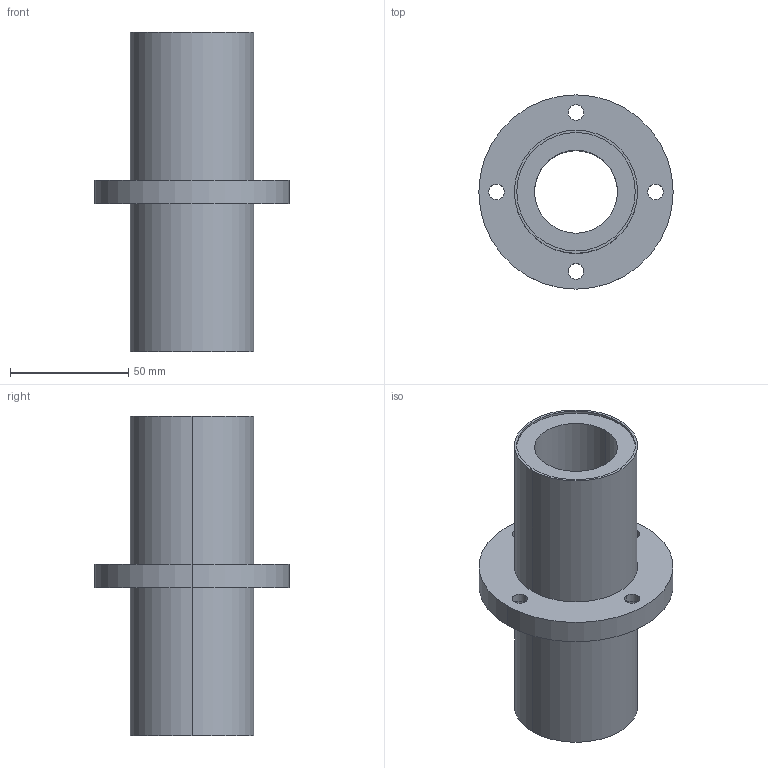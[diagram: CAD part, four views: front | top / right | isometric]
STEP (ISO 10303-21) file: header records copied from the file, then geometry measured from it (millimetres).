
FILE_DESCRIPTION((''),'2;1');
FILE_NAME('C:\Documents and Settings\ｿﾀﾀ蠑ｷ1\ｹﾙﾅﾁ ﾈｭｸ饅\ｺﾎﾇｰﾆﾄﾀﾏ\ﾁｦﾇｰ\LMFM__UU\LMFM35UU.stp','2005-06-15T13:25:31',('ｿﾀﾀ蠑ｷ1'),(''),'Autodesk Inventor 9','Autodesk Inventor 9','');
FILE_SCHEMA(('AUTOMOTIVE_DESIGN { 1 0 10303 214 1 1 1 1 }'));
Length unit declared in the file: millimetre
Products named in the file (1): LMFM__
Bounding box: 82 x 82 x 135 mm (x, y, z)
Volume: 183436.9 mm3; surface area: 47487.6 mm2
Topology: 1 solids, 1 shells, 38 faces, 84 edges, 56 vertices
Faces by surface type: cylinder 28, plane 10
Entity records: 1127 total; most frequent: DIRECTION 218, CARTESIAN_POINT 179, ORIENTED_EDGE 168, AXIS2_PLACEMENT_3D 95, EDGE_CURVE 84, VERTEX_POINT 56, CIRCLE 56, EDGE_LOOP 56
